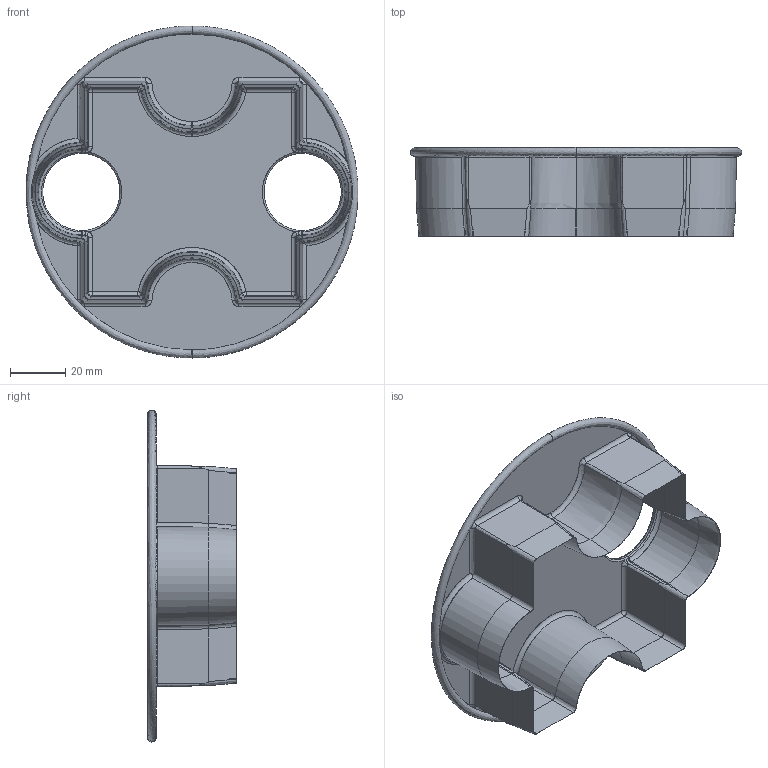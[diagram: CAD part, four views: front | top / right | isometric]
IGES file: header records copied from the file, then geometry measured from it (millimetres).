
Start section: SolidWorks IGES file using analytic representation for surfaces
Global section: file name: C:\Users\Stupidiotic\Desktop\Puzzle Cutter\Puzzle Cutter.IGS; native system: SolidWorks 2016; preprocessor: SolidWorks 2016; author: Stupidiotic; date: 240903.112116; units: millimetre
Bounding box: 119.96 x 32 x 120 mm (x, y, z)
Surface area: 42711.6 mm2 (no closed solid volume)
Topology: 0 solids, 0 shells, 200 faces, 2362 edges, 2362 vertices
Faces by surface type: bspline 113, revolution 87
